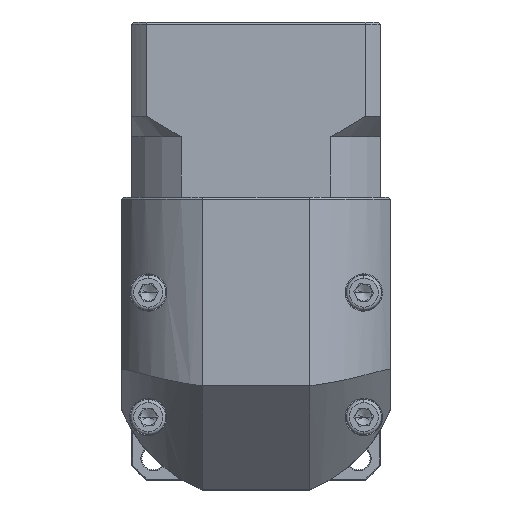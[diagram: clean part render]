
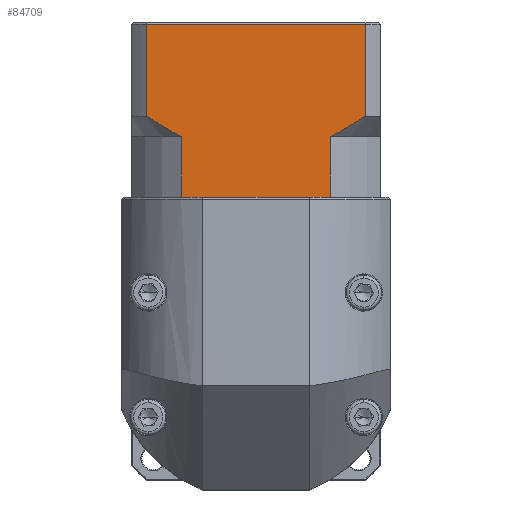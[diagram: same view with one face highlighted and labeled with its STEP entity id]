
A CAD part, top view. The second image highlights one B-rep face of the part: STEP entity #84709.
In plain terms, the highlighted planar face has unit normal (0, 0, 1).
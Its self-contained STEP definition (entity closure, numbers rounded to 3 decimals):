
#649 = CARTESIAN_POINT ( 'NONE',  ( -81.823, 81.386, 62.797 ) ) ;
#1895 = EDGE_CURVE ( 'NONE', #91456, #91976, #95137, .T. ) ;
#3067 = CARTESIAN_POINT ( 'NONE',  ( -45.307, 66.138, 62.797 ) ) ;
#3098 = EDGE_CURVE ( 'NONE', #69690, #91976, #9387, .T. ) ;
#6457 = CARTESIAN_POINT ( 'NONE',  ( -92.343, 66.138, 62.797 ) ) ;
#8353 = VERTEX_POINT ( 'NONE', #39497 ) ;
#9387 = LINE ( 'NONE', #94588, #16347 ) ;
#10413 = CARTESIAN_POINT ( 'NONE',  ( -87.441, 84.738, 62.797 ) ) ;
#10729 = VECTOR ( 'NONE', #16809, 1000. ) ;
#10807 = EDGE_CURVE ( 'NONE', #20246, #95832, #113468, .T. ) ;
#11354 = CARTESIAN_POINT ( 'NONE',  ( -35.886, 80.638, 62.797 ) ) ;
#12945 = CARTESIAN_POINT ( 'NONE',  ( -44.316, 80.638, 62.797 ) ) ;
#13423 = DIRECTION ( 'NONE',  ( 1., 0., 0. ) ) ;
#14279 = AXIS2_PLACEMENT_3D ( 'NONE', #41119, #102840, #49313 ) ;
#15831 = DIRECTION ( 'NONE',  ( 1., 0., 0. ) ) ;
#16347 = VECTOR ( 'NONE', #68148, 1000. ) ;
#16809 = DIRECTION ( 'NONE',  ( 1., 0., 0. ) ) ;
#19730 = CARTESIAN_POINT ( 'NONE',  ( -80.371, 80.638, 62.797 ) ) ;
#20246 = VERTEX_POINT ( 'NONE', #57706 ) ;
#22000 = CARTESIAN_POINT ( 'NONE',  ( -80.371, 80.638, 62.797 ) ) ;
#24370 = VECTOR ( 'NONE', #51551, 1000. ) ;
#28271 = CARTESIAN_POINT ( 'NONE',  ( -35.886, 107.838, 62.797 ) ) ;
#28606 = CARTESIAN_POINT ( 'NONE',  ( -88.801, 85.638, 62.797 ) ) ;
#30904 = DIRECTION ( 'NONE',  ( 0., 1., 0. ) ) ;
#33673 = ORIENTED_EDGE ( 'NONE', *, *, #67139, .F. ) ;
#35612 = EDGE_CURVE ( 'NONE', #107508, #84957, #94100, .T. ) ;
#37151 = ORIENTED_EDGE ( 'NONE', *, *, #86196, .F. ) ;
#38014 = ORIENTED_EDGE ( 'NONE', *, *, #105978, .T. ) ;
#39497 = CARTESIAN_POINT ( 'NONE',  ( -80.371, 80.638, 62.797 ) ) ;
#40513 = LINE ( 'NONE', #48676, #77955 ) ;
#41119 = CARTESIAN_POINT ( 'NONE',  ( -92.343, 108.338, 62.797 ) ) ;
#42913 = ORIENTED_EDGE ( 'NONE', *, *, #100414, .F. ) ;
#43137 = DIRECTION ( 'NONE',  ( 0., -1., 0. ) ) ;
#43295 = LINE ( 'NONE', #22000, #108600 ) ;
#45573 = B_SPLINE_CURVE_WITH_KNOTS ( 'NONE', 3,
 ( #28606, #10413, #107804, #46057, #649, #19730 ),
 .UNSPECIFIED., .F., .F.,
 ( 4, 2, 4 ),
 ( 0.052, 0.057, 0.062 ),
 .UNSPECIFIED. ) ;
#46057 = CARTESIAN_POINT ( 'NONE',  ( -83.255, 82.189, 62.797 ) ) ;
#47332 = VECTOR ( 'NONE', #54757, 1000. ) ;
#48200 = CARTESIAN_POINT ( 'NONE',  ( -42.859, 81.388, 62.797 ) ) ;
#48676 = CARTESIAN_POINT ( 'NONE',  ( -92.343, 66.138, 62.797 ) ) ;
#49136 = CARTESIAN_POINT ( 'NONE',  ( -44.316, 80.638, 62.797 ) ) ;
#49313 = DIRECTION ( 'NONE',  ( 0., 1., 0. ) ) ;
#49742 = CARTESIAN_POINT ( 'NONE',  ( -38.628, 83.862, 62.797 ) ) ;
#51551 = DIRECTION ( 'NONE',  ( -1., 0., 0. ) ) ;
#54479 = CARTESIAN_POINT ( 'NONE',  ( -79.38, 66.138, 62.797 ) ) ;
#54757 = DIRECTION ( 'NONE',  ( 0., -1., 0. ) ) ;
#55565 = ORIENTED_EDGE ( 'NONE', *, *, #90417, .T. ) ;
#55698 = LINE ( 'NONE', #11354, #47332 ) ;
#56686 = VECTOR ( 'NONE', #43137, 1000. ) ;
#57706 = CARTESIAN_POINT ( 'NONE',  ( -80.371, 66.138, 62.797 ) ) ;
#58666 = CARTESIAN_POINT ( 'NONE',  ( -37.249, 84.736, 62.797 ) ) ;
#60599 = CARTESIAN_POINT ( 'NONE',  ( -44.316, 80.638, 62.797 ) ) ;
#64153 = CARTESIAN_POINT ( 'NONE',  ( -88.801, 107.838, 62.797 ) ) ;
#64802 = ORIENTED_EDGE ( 'NONE', *, *, #90248, .T. ) ;
#66888 = ORIENTED_EDGE ( 'NONE', *, *, #3098, .F. ) ;
#67139 = EDGE_CURVE ( 'NONE', #20246, #8353, #43295, .T. ) ;
#67519 = CARTESIAN_POINT ( 'NONE',  ( -35.886, 85.638, 62.797 ) ) ;
#68148 = DIRECTION ( 'NONE',  ( 0., 1., 0. ) ) ;
#69690 = VERTEX_POINT ( 'NONE', #90628 ) ;
#72179 = VERTEX_POINT ( 'NONE', #95792 ) ;
#73192 = LINE ( 'NONE', #60599, #56686 ) ;
#77955 = VECTOR ( 'NONE', #13423, 1000. ) ;
#80689 = ORIENTED_EDGE ( 'NONE', *, *, #35612, .T. ) ;
#82777 = FACE_OUTER_BOUND ( 'NONE', #84228, .T. ) ;
#84199 = CARTESIAN_POINT ( 'NONE',  ( -41.434, 82.188, 62.797 ) ) ;
#84228 = EDGE_LOOP ( 'NONE', ( #42913, #102185, #66888, #38014, #33673, #88331, #55565, #64802, #37151, #80689 ) ) ;
#84709 = ADVANCED_FACE ( 'NONE', ( #82777 ), #85713, .F. ) ;
#84957 = VERTEX_POINT ( 'NONE', #95030 ) ;
#85713 = PLANE ( 'NONE',  #14279 ) ;
#86196 = EDGE_CURVE ( 'NONE', #107508, #72179, #73192, .T. ) ;
#87819 = VECTOR ( 'NONE', #15831, 1000. ) ;
#88331 = ORIENTED_EDGE ( 'NONE', *, *, #10807, .T. ) ;
#90248 = EDGE_CURVE ( 'NONE', #112429, #72179, #96195, .T. ) ;
#90417 = EDGE_CURVE ( 'NONE', #95832, #112429, #40513, .T. ) ;
#90628 = CARTESIAN_POINT ( 'NONE',  ( -88.801, 85.638, 62.797 ) ) ;
#91456 = VERTEX_POINT ( 'NONE', #28271 ) ;
#91473 = CARTESIAN_POINT ( 'NONE',  ( -92.343, 107.838, 62.797 ) ) ;
#91976 = VERTEX_POINT ( 'NONE', #64153 ) ;
#94100 = B_SPLINE_CURVE_WITH_KNOTS ( 'NONE', 3,
 ( #12945, #48200, #84199, #49742, #58666, #67519 ),
 .UNSPECIFIED., .F., .F.,
 ( 4, 2, 4 ),
 ( 0.1, 0.104, 0.109 ),
 .UNSPECIFIED. ) ;
#94588 = CARTESIAN_POINT ( 'NONE',  ( -88.801, 80.638, 62.797 ) ) ;
#95030 = CARTESIAN_POINT ( 'NONE',  ( -35.886, 85.638, 62.797 ) ) ;
#95137 = LINE ( 'NONE', #91473, #24370 ) ;
#95792 = CARTESIAN_POINT ( 'NONE',  ( -44.316, 66.138, 62.797 ) ) ;
#95832 = VERTEX_POINT ( 'NONE', #54479 ) ;
#96195 = LINE ( 'NONE', #6457, #87819 ) ;
#100414 = EDGE_CURVE ( 'NONE', #91456, #84957, #55698, .T. ) ;
#102185 = ORIENTED_EDGE ( 'NONE', *, *, #1895, .T. ) ;
#102840 = DIRECTION ( 'NONE',  ( 0., 0., -1. ) ) ;
#105978 = EDGE_CURVE ( 'NONE', #69690, #8353, #45573, .T. ) ;
#106780 = CARTESIAN_POINT ( 'NONE',  ( -92.343, 66.138, 62.797 ) ) ;
#107508 = VERTEX_POINT ( 'NONE', #49136 ) ;
#107804 = CARTESIAN_POINT ( 'NONE',  ( -86.062, 83.865, 62.797 ) ) ;
#108600 = VECTOR ( 'NONE', #30904, 1000. ) ;
#112429 = VERTEX_POINT ( 'NONE', #3067 ) ;
#113468 = LINE ( 'NONE', #106780, #10729 ) ;
